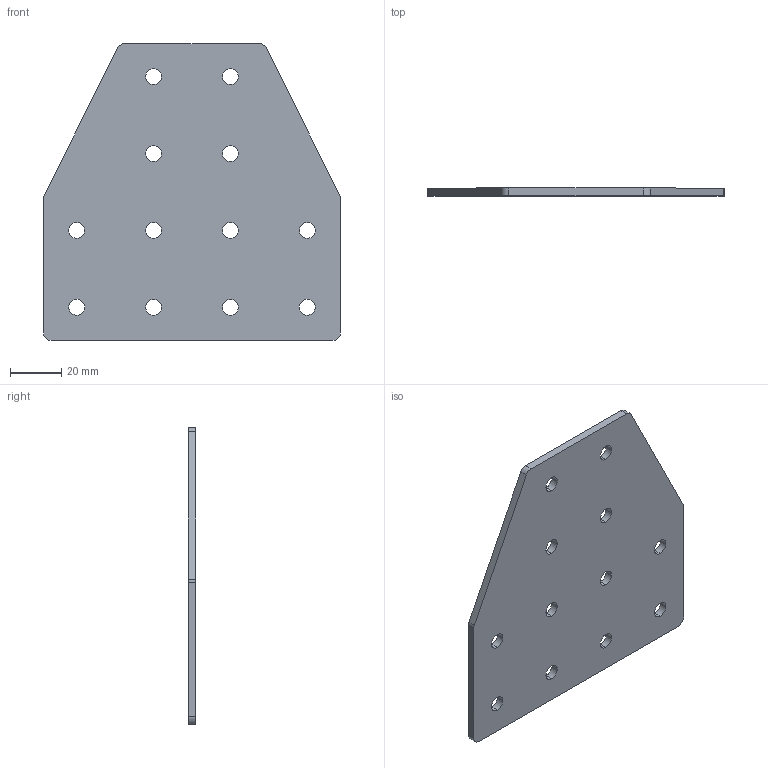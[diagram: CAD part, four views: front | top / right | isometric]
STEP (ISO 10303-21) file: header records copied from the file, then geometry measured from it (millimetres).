
FILE_DESCRIPTION (( 'STEP AP203' ), '1' );
FILE_NAME ('ﾒ-12-ﾓ-30.STEP', '2016-07-22T11:08:35', ( '' ), ( '' ), 'SwSTEP 2.0', 'SolidWorks 2014', '' );
FILE_SCHEMA (( 'CONFIG_CONTROL_DESIGN' ));
Length unit declared in the file: millimetre
Products named in the file (1): ﾒ-12-ﾓ-30
Bounding box: 116 x 3 x 116 mm (x, y, z)
Volume: 33902.5 mm3; surface area: 24547.7 mm2
Topology: 1 solids, 1 shells, 38 faces, 108 edges, 72 vertices
Faces by surface type: cylinder 30, plane 8
Entity records: 1397 total; most frequent: DIRECTION 246, CARTESIAN_POINT 219, ORIENTED_EDGE 216, EDGE_CURVE 108, AXIS2_PLACEMENT_3D 99, VERTEX_POINT 72, EDGE_LOOP 62, CIRCLE 60
